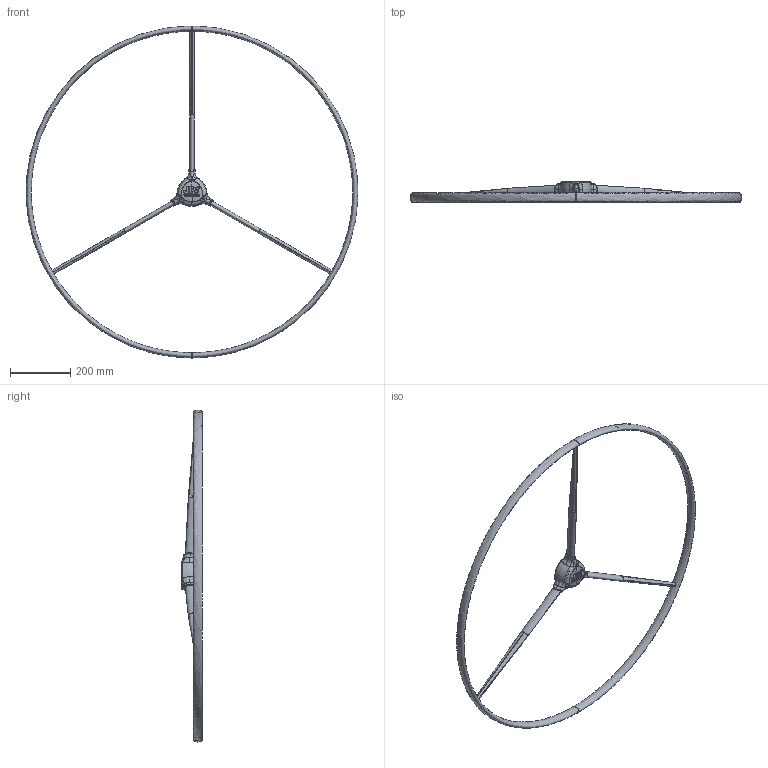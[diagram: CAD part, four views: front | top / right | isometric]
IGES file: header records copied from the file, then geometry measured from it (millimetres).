
Start section: Missler Software BP 521, 31674 Labege Cedex, France Tel   : +33 (0)5 61 00 03 00 Fax   : +33 (0)5 61 00 03 03 Email : sup.topsolid@topsolid.com
Global section: file name: 15HZ:\J\Jp3\Barre; native system: Rhinoceros ( Jul  7 2007 ); preprocessor: Trout Lake IGES 012 Jul  7 2007; date: 120223.140612; units: millimetre
Bounding box: 1099.05 x 69.5 x 1100 mm (x, y, z)
Surface area: 760486.3 mm2 (no closed solid volume)
Topology: 0 solids, 0 shells, 205 faces, 10954 edges, 10942 vertices
Faces by surface type: bspline 205
